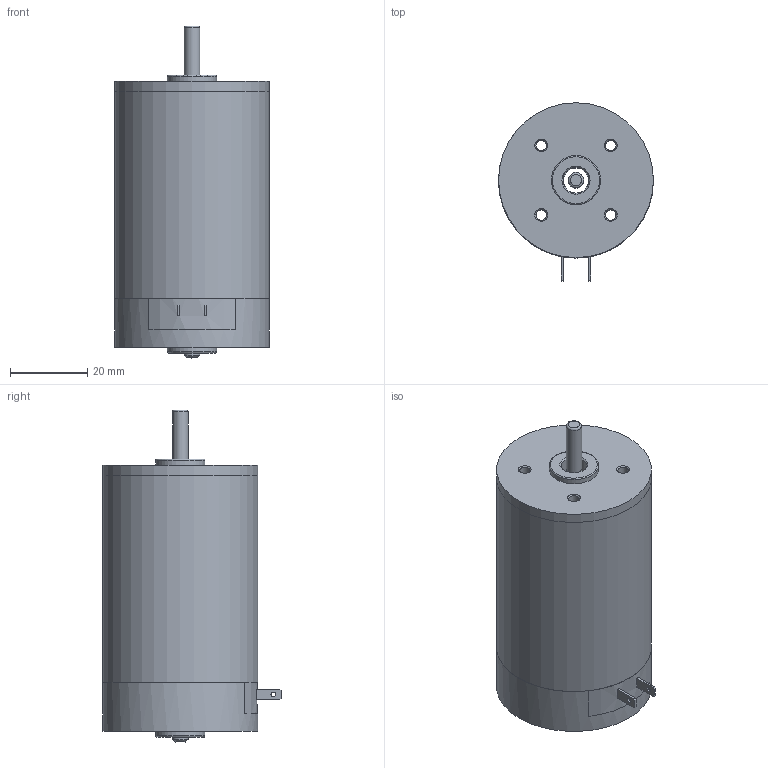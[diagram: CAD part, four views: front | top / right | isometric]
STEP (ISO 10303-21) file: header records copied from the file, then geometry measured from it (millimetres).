
FILE_DESCRIPTION(/* description */ (''),/* implementation_level */ '2;1');
FILE_NAME(/* name */ 'Z:\새 폴더\Compact Type RM4_3D\RM45ㅁBT.stp',/* time_stamp */ '2022-04-05T16:21:43+09:00',/* author */ ('umbro'),/* organization */ (''),/* preprocessor_version */ 'ST-DEVELOPER v17',/* originating_system */ 'Autodesk Inventor 2019',/* authorisation */ '');
FILE_SCHEMA (('AUTOMOTIVE_DESIGN { 1 0 10303 214 3 1 1 }'));
Length unit declared in the file: millimetre
Products named in the file (8): RM45ㅁBT; REAR_HOUSING__ASS'Y_TERMINAL; RM4TYPE_BRUSH_BRAKET_TERMINAL; RM4TYPE_REAR_HOUSING; RM4TYPE_FRONT_HOUSING_; RM4TYPE_PIPE_HOUSING_pi40XL53.5; RM45TYPE_SHAFT; AS 1427 Z - 미터 M3.5 x 5
Assembly tree (7 placements, depth 2):
  RM45ㅁBT
    RM4TYPE_FRONT_HOUSING_
    RM4TYPE_PIPE_HOUSING_pi40XL53.5
    RM45TYPE_SHAFT
    AS 1427 Z - 미터 M3.5 x 5  x2
  REAR_HOUSING__ASS'Y_TERMINAL
    RM4TYPE_BRUSH_BRAKET_TERMINAL
    RM4TYPE_REAR_HOUSING
Bounding box: 40 x 46 x 85.74 mm (x, y, z)
Volume: 23608.9 mm3; surface area: 23294.3 mm2
Topology: 7 solids, 7 shells, 158 faces, 405 edges, 266 vertices
Faces by surface type: plane 73, cone 44, cylinder 30, torus 11
Full cylindrical faces by diameter (mm): 1.2 x2, 2.7 x4, 2.8 x4, 3.132 x2, 3.5 x2, 3.7 x2, 3.969 x1, 4 x1, 6.1 x2, 6.5 x1, 6.65 x1, 12.7 x2, 36.5 x1, 40 x3
Entity records: 4068 total; most frequent: CARTESIAN_POINT 834, DIRECTION 643, ORIENTED_EDGE 580, EDGE_CURVE 290, AXIS2_PLACEMENT_3D 256, VERTEX_POINT 191, EDGE_LOOP 153, LINE 131
